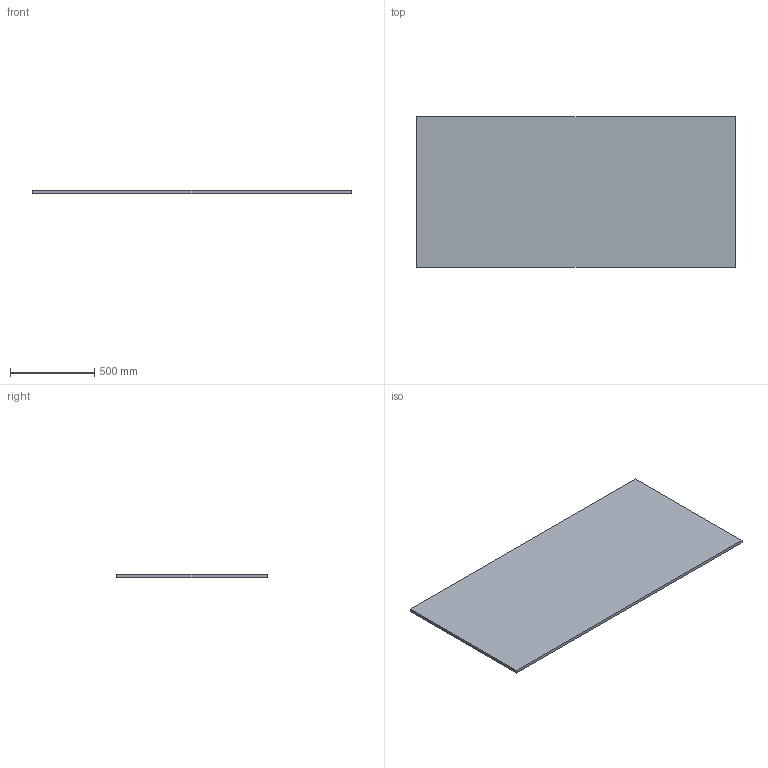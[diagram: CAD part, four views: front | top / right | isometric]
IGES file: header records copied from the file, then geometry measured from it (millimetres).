
Start section: 3D InterOp IGES (Version 23 0 1), Spatial Corp. Copyright (c) 1999-2007.
Global section: file name: DAV SO 90 F.igs; native system: Spatial Corp.; preprocessor: 3D InterOp GENERIC/IGES 3.0; author: Noname; organization: Noname; date: 20130608.083723; units: millimetre
Bounding box: 1896 x 896 x 18 mm (x, y, z)
Surface area: 3498144 mm2 (no closed solid volume)
Topology: 0 solids, 0 shells, 6 faces, 24 edges, 24 vertices
Faces by surface type: extrusion 6
